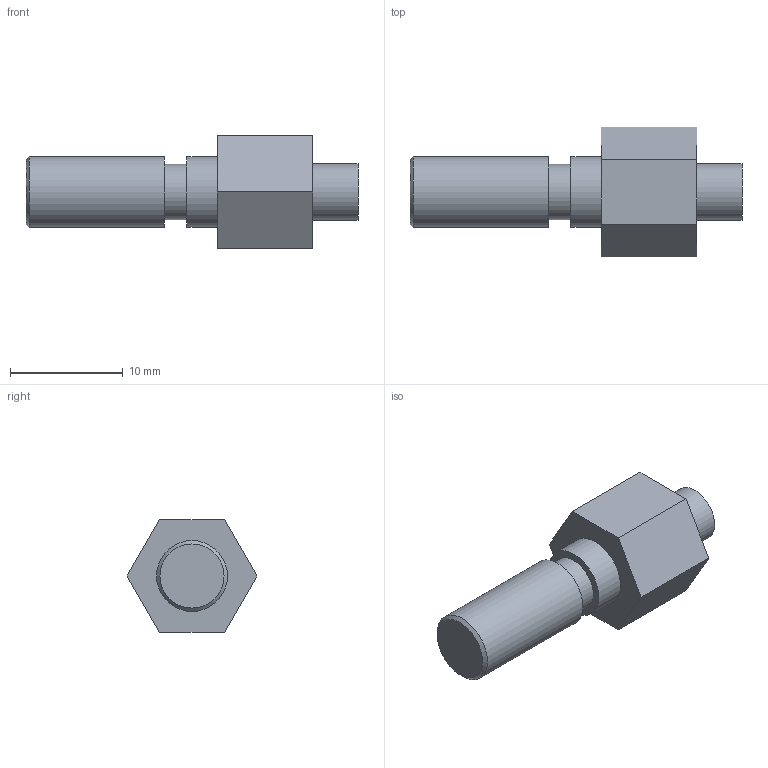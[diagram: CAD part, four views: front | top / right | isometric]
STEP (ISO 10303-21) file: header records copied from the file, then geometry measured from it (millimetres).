
FILE_DESCRIPTION((''),'2;1');
FILE_NAME('Z:\客先\あ行\アオイ\99_その他\3D_DATA\CPR_Series\7CPR-SPV-M5\STEP\203\CPR-SPV-M5.stp','2008-07-02T10:41:20',('y-shimohigashi'),(''),'Autodesk Inventor 2009','Autodesk Inventor 2009','');
FILE_SCHEMA(('CONFIG_CONTROL_DESIGN'));
Length unit declared in the file: millimetre
Products named in the file (1): CPR-SPV-M5
Bounding box: 29.5 x 11.55 x 10 mm (x, y, z)
Volume: 1319.1 mm3; surface area: 879.2 mm2
Topology: 1 solids, 1 shells, 17 faces, 33 edges, 22 vertices
Faces by surface type: plane 12, cylinder 4, cone 1
Full cylindrical faces by diameter (mm): 4.9 x1, 5 x1, 6.3 x2
Entity records: 419 total; most frequent: DIRECTION 72, CARTESIAN_POINT 66, ORIENTED_EDGE 54, AXIS2_PLACEMENT_3D 27, EDGE_CURVE 27, EDGE_LOOP 26, VERTEX_POINT 21, VECTOR 18
